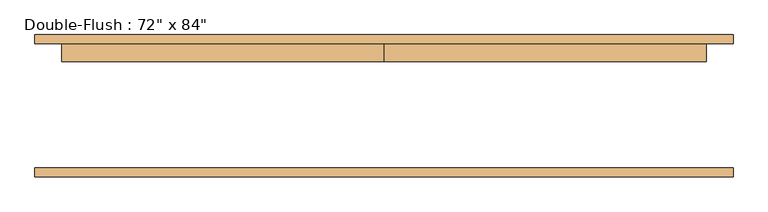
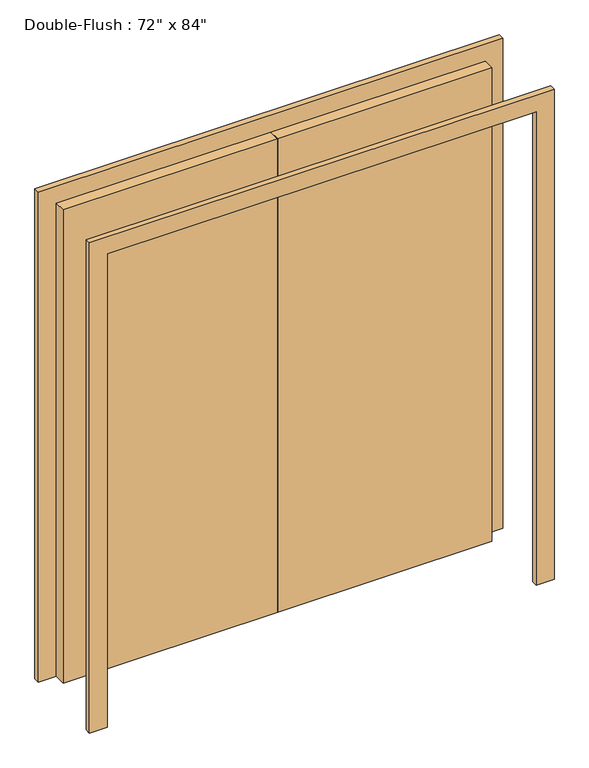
"""IFC4 building model written with IfcOpenShell, lengths in millimetres: door geometry."""

from ifc_helpers import new_model, si_unit, frame, origin, origin_with_axes, place, context, project, spatial, polyline, outline, extrude, source, transform, mapped, element, save


def door_1883fffc(model_context):
    return source(origin(), model_context, "Body", "SweptSolid", [
        extrude(outline(polyline([(0.0, 176.2125), (914.4, 176.2125), (914.4, 125.4125), (0.0, 125.4125), (0.0, 176.2125)])), origin_with_axes(), (0.0, 0.0, 1.0), 2133.6),
        extrude(outline(polyline([(-914.4, 176.2125), (0.0, 176.2125), (0.0, 125.4125), (-914.4, 125.4125), (-914.4, 176.2125)])), origin_with_axes(), (0.0, 0.0, 1.0), 2133.6),
        extrude(outline(polyline([(2133.6, -914.4), (2133.6, 914.4), (0.0, 914.4), (0.0, 990.6), (2209.8, 990.6), (2209.8, -990.6), (0.0, -990.6), (0.0, -914.4), (2133.6, -914.4)])), frame((0.0, -201.6125, 0.0), z_axis=(0.0, 1.0, 0.0), x_axis=(0.0, 0.0, 1.0)), (0.0, 0.0, 1.0), 25.4),
        extrude(outline(polyline([(2133.6, -914.4), (2133.6, 914.4), (0.0, 914.4), (0.0, 990.6), (2209.8, 990.6), (2209.8, -990.6), (0.0, -990.6), (0.0, -914.4), (2133.6, -914.4)])), frame((0.0, 176.2125, 0.0), z_axis=(0.0, 1.0, 0.0), x_axis=(0.0, 0.0, 1.0)), (0.0, 0.0, 1.0), 25.4),
    ])


if __name__ == "__main__":
    model = new_model("IFC4")
    model_context = context("Model", 3, world=origin())
    ifc_project = project(units=[si_unit("LENGTHUNIT", "METRE", prefix="MILLI")], contexts=[model_context])
    site = spatial("IfcSite", under=ifc_project)
    building = spatial("IfcBuilding", under=site)
    placement = place(None, origin())
    door_shape = door_1883fffc(model_context)
    element("IfcDoor", 1, ObjectType="Double-Flush : 72\" x 84\"", at=placement, inside=building, context=model_context, shape_type="MappedRepresentation", body=[
        mapped(door_shape, transform((0.0, 0.0, 0.0), x_axis=(1.0, 0.0, 0.0), y_axis=(0.0, 1.0, 0.0), z_axis=(0.0, 0.0, 1.0))),
    ])
    save(model, "model.ifc")
